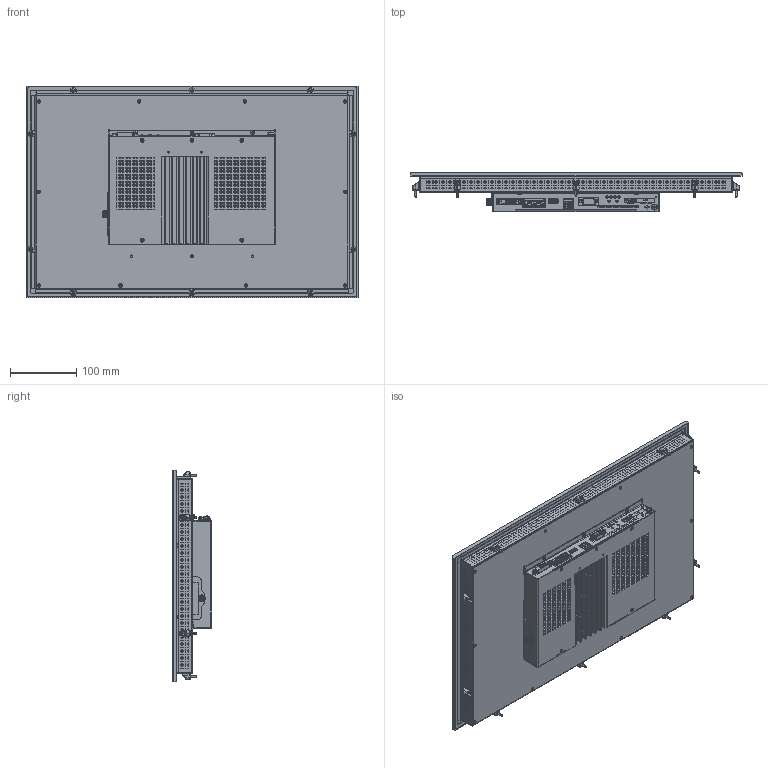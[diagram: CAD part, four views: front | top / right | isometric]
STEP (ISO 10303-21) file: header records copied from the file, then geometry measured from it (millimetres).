
FILE_DESCRIPTION((''),'2;1');
FILE_NAME('C6E22-Panel_185W_CAP_SL','2017-03-07T',('manpal'),(''),'PRO/ENGINEER BY PARAMETRIC TECHNOLOGY CORPORATION, 2013410','PRO/ENGINEER BY PARAMETRIC TECHNOLOGY CORPORATION, 2013410','');
FILE_SCHEMA(('AUTOMOTIVE_DESIGN { 1 0 10303 214 1 1 1 1 }'));
Products named in the file (2): C6E22-Panel_185W_CAP_SL_
Assembly tree (1 placements, depth 2):
  C6E22-Panel_185W_CAP_SL_
    C6E22-Panel_185W_CAP_SL_
Bounding box: 503 x 59.8 x 320.5 mm (x, y, z)
Surface area: 907000.5 mm2 (no closed solid volume)
Topology: 0 solids, 368 shells, 4522 faces, 20880 edges, 16538 vertices
Faces by surface type: plane 3436, cylinder 689, cone 224, bspline 113, torus 31, sphere 27, extrusion 2
Entity records: 235950 total; most frequent: CARTESIAN_POINT 52596, DIRECTION 31670, ORIENTED_EDGE 29197, EDGE_CURVE 20838, VECTOR 16706, LINE 16704, VERTEX_POINT 16538, AXIS2_PLACEMENT_3D 7482
